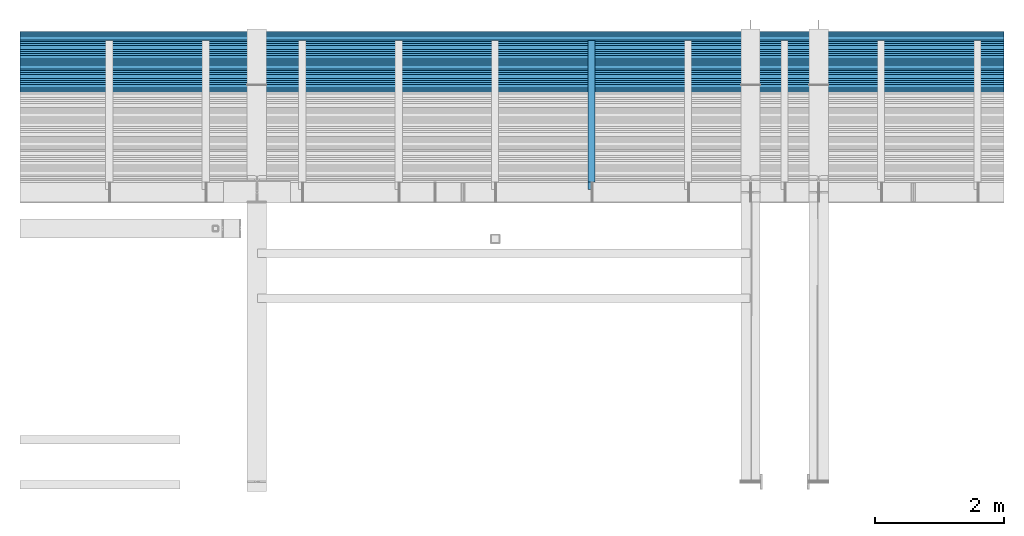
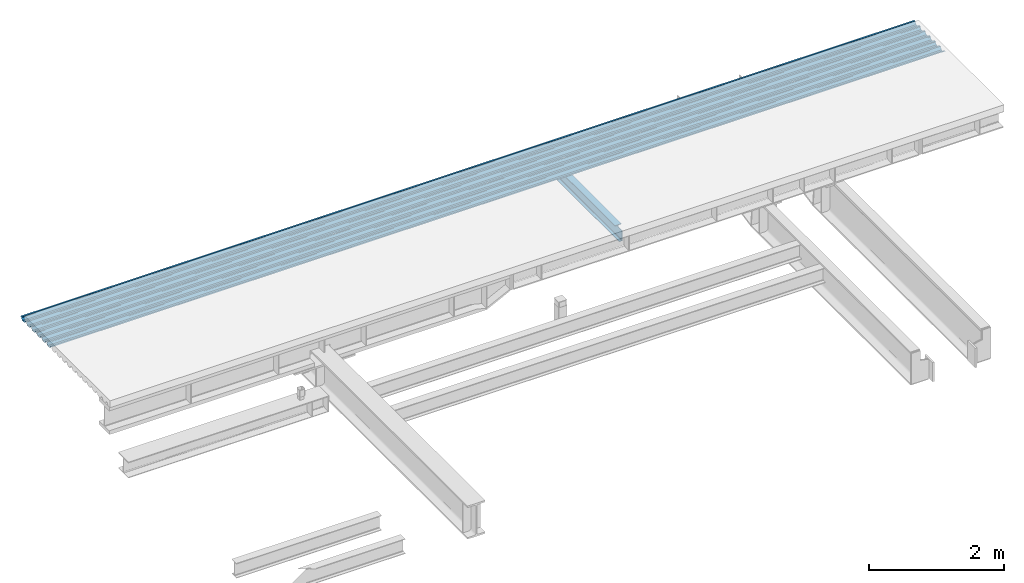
# One storey, part 9 of 12: 3 beams.
"""IFC2X3 building model written with IfcOpenShell, lengths in millimetres."""

import ifcopenshell
import ifcopenshell.guid

model = None  # the IFC model being written
_history = None  # IfcOwnerHistory: only IFC2X3 demands one
_inside = {}  # id of a spatial element -> (the spatial element, [elements in it])
_under = {}  # id of a project, library or spatial element -> (it, [spatial elements below it])
_declared = {}  # id of a project -> (the project, [libraries it declares])
_typed = {}  # id of a type object -> (the type object, [elements of that type])
_made_of = {}  # id of a material, layer set ... -> (it, [elements and type objects made of it])


def new_model(schema):
    """Start an empty IFC model of exactly this schema.

    Asked for "IFC4X3", IfcOpenShell would pick the latest addendum, in which some entities
    have other attributes; the version numbers below select the first issue.
    IFC2X3 requires an IfcOwnerHistory on every rooted entity: one is made here for all.
    """
    global model, _history
    if schema == "IFC4X3":
        model = ifcopenshell.file(schema_version=(4, 3, 0, 0))
    else:
        model = ifcopenshell.file(schema=schema)
    _inside.clear()
    _under.clear()
    _declared.clear()
    _typed.clear()
    _made_of.clear()
    _history = None
    if model.schema == "IFC2X3":
        org = make("IfcOrganization", Name="unknown")
        user = make(
            "IfcPersonAndOrganization",
            ThePerson=make("IfcPerson", FamilyName="unknown"),
            TheOrganization=org,
        )
        app = make(
            "IfcApplication",
            ApplicationDeveloper=org,
            Version="unknown",
            ApplicationFullName="unknown",
            ApplicationIdentifier="unknown",
        )
        _history = make(
            "IfcOwnerHistory",
            OwningUser=user,
            OwningApplication=app,
            ChangeAction="ADDED",
            CreationDate=0,
        )
    return model


def make(cls, **values):
    """One entity of the class cls with the attributes given. An attribute that is None is left unset."""
    return model.create_entity(
        cls, **{name: value for name, value in values.items() if value is not None}
    )


def entity(cls, *values):
    """Any entity or typed value of the class cls, its attributes in the order of the schema. None: left unset."""
    e = model.create_entity(cls)
    for i, value in enumerate(values):
        if value is not None:
            e[i] = value
    return e


def rooted(cls, **values):
    """An entity with a GlobalId (a new one), such as an element, a storey or a relation."""
    return make(cls, GlobalId=ifcopenshell.guid.new(), OwnerHistory=_history, **values)


def si_unit(unit_type, name, prefix=None):
    """IfcSIUnit, for example si_unit("LENGTHUNIT", "METRE", prefix="MILLI")."""
    return make("IfcSIUnit", UnitType=unit_type, Prefix=prefix, Name=name)


def converted_unit(unit_type, name, factor, base, dimensions=None, offset=None):
    """IfcConversionBasedUnit, such as the inch: factor (a typed value) times the base unit."""
    return make(
        "IfcConversionBasedUnit"
        if offset is None
        else "IfcConversionBasedUnitWithOffset",
        ConversionOffset=offset,
        Dimensions=None
        if dimensions is None
        else entity("IfcDimensionalExponents", *dimensions),
        UnitType=unit_type,
        Name=name,
        ConversionFactor=make(
            "IfcMeasureWithUnit", ValueComponent=factor, UnitComponent=base
        ),
    )


def derived_unit(unit_type, elements):
    """IfcDerivedUnit: a product of units, each with its exponent."""
    return make(
        "IfcDerivedUnit",
        Elements=[
            make("IfcDerivedUnitElement", Unit=unit, Exponent=power)
            for unit, power in elements
        ],
        UnitType=unit_type,
    )


def assignment(units):
    """IfcUnitAssignment: the units of a project."""
    return None if units is None else make("IfcUnitAssignment", Units=units)


def point(xyz):
    """IfcCartesianPoint."""
    return None if xyz is None else make("IfcCartesianPoint", Coordinates=xyz)


def direction(xyz):
    """IfcDirection."""
    return None if xyz is None else make("IfcDirection", DirectionRatios=xyz)


def frame(location, z_axis=None, x_axis=None):
    """IfcAxis2Placement3D, a coordinate frame: its origin and axes. An axis left out is left unset."""
    return make(
        "IfcAxis2Placement3D",
        Location=point(location),
        Axis=direction(z_axis),
        RefDirection=direction(x_axis),
    )


def origin_with_axes():
    """The frame at (0, 0, 0) with the z axis (0, 0, 1) and the x axis (1, 0, 0) written out."""
    return frame((0.0, 0.0, 0.0), z_axis=(0.0, 0.0, 1.0), x_axis=(1.0, 0.0, 0.0))


def place(relative_to, where):
    """IfcLocalPlacement: puts the frame where relative to a parent placement (None: the world)."""
    return make(
        "IfcLocalPlacement", PlacementRelTo=relative_to, RelativePlacement=where
    )


def context(
    kind, dimensions, precision=None, world=None, true_north=None, identifier=None
):
    """IfcGeometricRepresentationContext, for example the 3D "Model" context."""
    return make(
        "IfcGeometricRepresentationContext",
        ContextIdentifier=identifier,
        ContextType=kind,
        CoordinateSpaceDimension=dimensions,
        Precision=precision,
        WorldCoordinateSystem=world,
        TrueNorth=true_north,
    )


def subcontext(parent, identifier, kind, view, scale=None):
    """IfcGeometricRepresentationSubContext, for example "Body" below "Model"."""
    return make(
        "IfcGeometricRepresentationSubContext",
        ContextIdentifier=identifier,
        ContextType=kind,
        ParentContext=parent,
        TargetScale=scale,
        TargetView=view,
    )


def project(units=None, contexts=None):
    """IfcProject with its units and contexts."""
    return rooted(
        "IfcProject",
        Name="project",
        RepresentationContexts=contexts,
        UnitsInContext=assignment(units),
    )


def spatial(cls, under=None, at=None, **own):
    """A site, building, storey or space (cls), placed at a placement, below another one or the project."""
    s = rooted(cls, ObjectPlacement=at, **own)
    if under is not None:
        _under.setdefault(under.id(), (under, []))[1].append(s)
    return s


def faces_of(points, faces, orient=None, outer=None):
    """IfcFace entities. A face is a list of loops; a loop is a list of indices into points, from 0.

    orient and outer hold one flag for each loop. By default every Orientation is true, the
    first loop of a face is its IfcFaceOuterBound and the others are IfcFaceBound.
    """
    made = []
    for i, loops in enumerate(faces):
        bounds = []
        for j, loop in enumerate(loops):
            is_outer = j == 0 if outer is None else outer[i][j]
            bounds.append(
                make(
                    "IfcFaceOuterBound" if is_outer else "IfcFaceBound",
                    Bound=make("IfcPolyLoop", Polygon=[points[k] for k in loop]),
                    Orientation=True if orient is None else orient[i][j],
                )
            )
        made.append(make("IfcFace", Bounds=bounds))
    return made


def faceted_brep(points, faces, orient=None, outer=None, voids=None):
    """IfcFacetedBrep: a solid bounded by flat faces; with voids (closed shells), ...WithVoids."""
    shared = [point(p) for p in points]
    hull = make("IfcClosedShell", CfsFaces=faces_of(shared, faces, orient, outer))
    if voids is None:
        return make("IfcFacetedBrep", Outer=hull)
    return make(
        "IfcFacetedBrepWithVoids",
        Outer=hull,
        Voids=[
            make(cls, CfsFaces=faces_of(shared, fs, o, b)) for cls, fs, o, b in voids
        ],
    )


def shape(context_of_items, identifier, shape_type, items):
    """IfcShapeRepresentation: the items that make up one representation, for example the "Body"."""
    return make(
        "IfcShapeRepresentation",
        ContextOfItems=context_of_items,
        RepresentationIdentifier=identifier,
        RepresentationType=shape_type,
        Items=items,
    )


def made_of(thing, what):
    """Note that an element or type object is made of a material, layer set ...; save() writes the relation."""
    if what is not None:
        _made_of.setdefault(what.id(), (what, []))[1].append(thing)
    return thing


def type_object(cls, material=None, **own):
    """A type object (cls), such as IfcWallType, which elements share."""
    return made_of(rooted(cls, **own), material)


def element(
    cls,
    number,
    at=None,
    inside=None,
    cuts=None,
    type_object=None,
    material=None,
    context=None,
    identifier="Body",
    shape_type=None,
    held_by="IfcProductDefinitionShape",
    body=None,
    shapes=None,
    **own,
):
    """One element of the class cls, such as IfcWall. Its Tag is "e" and its number.

    at: its placement. inside: the storey or other place that contains it. cuts: it is an
    opening in that element (IfcRelVoidsElement). A single representation is given by context,
    identifier, shape_type and body (its items); several are given by shapes. held_by: the class
    of the entity that holds the representations. save() writes the other relations.
    """
    e = rooted(cls, Tag="e%d" % number, ObjectPlacement=at, **own)
    if body is not None:
        shapes = [shape(context, identifier, shape_type, body)]
    if shapes is not None:
        e.Representation = make(held_by, Representations=shapes)
    if inside is not None:
        _inside.setdefault(inside.id(), (inside, []))[1].append(e)
    if cuts is not None:
        rooted(
            "IfcRelVoidsElement", RelatingBuildingElement=cuts, RelatedOpeningElement=e
        )
    if type_object is not None:
        _typed.setdefault(type_object.id(), (type_object, []))[1].append(e)
    return made_of(e, material)


def aggregate(whole, parts):
    """IfcRelAggregates: a whole, such as a stair, and the parts it consists of."""
    return rooted("IfcRelAggregates", RelatingObject=whole, RelatedObjects=parts)


def save(model, path):
    """Write the relations noted so far, then the file.

    IfcRelAggregates (storeys below a building ...), IfcRelContainedInSpatialStructure (elements
    in a storey), IfcRelDefinesByType, IfcRelAssociatesMaterial and IfcRelDeclares: one each for
    every whole, place, type object, material and project.
    """
    for whole, parts in _under.values():
        aggregate(whole, parts)
    for where, things in _inside.values():
        rooted(
            "IfcRelContainedInSpatialStructure",
            RelatedElements=things,
            RelatingStructure=where,
        )
    for kind, things in _typed.values():
        rooted("IfcRelDefinesByType", RelatedObjects=things, RelatingType=kind)
    for what, things in _made_of.values():
        rooted("IfcRelAssociatesMaterial", RelatedObjects=things, RelatingMaterial=what)
    for by, libraries in _declared.values():
        rooted("IfcRelDeclares", RelatingContext=by, RelatedDefinitions=libraries)
    model.write(path)


model = new_model("IFC2X3")

# Units and contexts
model_context = context("Model", 3, precision=0.01, world=frame((0.0, 4.29681676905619e-09, 0.0)), true_north=direction((4.01073788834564e-13, 1.0)))
plan_context = context("Plan", 3, precision=0.01, world=frame((0.0, 4.29681676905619e-09, 0.0)), true_north=direction((4.01073788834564e-13, 1.0)))
body_context = subcontext(model_context, "Body", "Model", "MODEL_VIEW")
ifc_project = project(units=[converted_unit("PLANEANGLEUNIT", "DEGREE", entity("IfcPositiveLengthMeasure", 0.0174532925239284), si_unit("PLANEANGLEUNIT", "RADIAN"), dimensions=[0, 0, 0, 0, 0, 0, 0]), si_unit("AREAUNIT", "SQUARE_METRE"), si_unit("LENGTHUNIT", "METRE", prefix="MILLI"), si_unit("MASSUNIT", "GRAM", prefix="KILO"), si_unit("POWERUNIT", "WATT"), si_unit("PRESSUREUNIT", "PASCAL"), si_unit("FORCEUNIT", "NEWTON", prefix="KILO"), si_unit("ELECTRICVOLTAGEUNIT", "VOLT"), si_unit("ELECTRICCURRENTUNIT", "AMPERE"), si_unit("THERMODYNAMICTEMPERATUREUNIT", "DEGREE_CELSIUS"), si_unit("TIMEUNIT", "SECOND"), si_unit("VOLUMEUNIT", "CUBIC_METRE"), derived_unit("LINEARVELOCITYUNIT", [(si_unit("LENGTHUNIT", "METRE"), 1), (si_unit("TIMEUNIT", "SECOND"), -1)]), derived_unit("VOLUMETRICFLOWRATEUNIT", [(si_unit("VOLUMEUNIT", "CUBIC_METRE"), 1), (si_unit("TIMEUNIT", "SECOND"), -1)]), derived_unit("THERMALTRANSMITTANCEUNIT", [(si_unit("POWERUNIT", "WATT"), 1), (si_unit("THERMODYNAMICTEMPERATUREUNIT", "KELVIN"), -1), (si_unit("AREAUNIT", "SQUARE_METRE"), -1)]), derived_unit("SOUNDPRESSUREUNIT", [(si_unit("PRESSUREUNIT", "PASCAL"), 1)])], contexts=[model_context, plan_context])

# Site, building, storey
site_placement = place(None, frame((0.0, -4.29681676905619e-09, 0.0), z_axis=(0.0, 0.0, 1.0), x_axis=(1.0, 0.0, 0.0)))
site = spatial("IfcSite", under=ifc_project, at=site_placement, Name="Gardermoen", CompositionType="ELEMENT")
building_placement = place(site_placement, frame((0.0, 4.29681676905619e-09, 0.0), z_axis=(0.0, 0.0, 1.0), x_axis=(1.0, 0.0, 0.0)))
building = spatial("IfcBuilding", under=site, at=building_placement, Name="TH", CompositionType="ELEMENT")
storey_placement = place(building_placement, origin_with_axes())
storey = spatial("IfcBuildingStorey", under=building, at=storey_placement, Name="D", CompositionType="ELEMENT", Elevation=0.0)

# Beams
beam_type_1 = type_object("IfcBeamType", Name="PLANNJACD45_H", PredefinedType="NOTDEFINED")
beam_1_placement = place(storey_placement, frame((886883.999728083, 486785.907461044, 210062.950004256), z_axis=(0.0, 0.0, 1.0), x_axis=(1.0, 0.0, 0.0)))
element("IfcBeam", 1, at=beam_1_placement, inside=storey, type_object=beam_type_1, Name="STÅLDEKKE", ObjectType="PLANNJACD45_H", context=body_context, shape_type="Brep", body=[
    faceted_brep([(8227.90644048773, 133.300002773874, -22.9500007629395), (8227.90644048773, 102.900001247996, 7.44999837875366), (23526.5851137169, 102.900001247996, 7.44999837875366), (23526.5851137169, 133.300002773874, -22.9500007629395), (8227.90644048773, 110.400001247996, 14.9500007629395), (23526.5851137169, 110.400001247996, 14.9500007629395), (8227.90644048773, 103.300002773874, 22.0500011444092), (23526.5851137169, 103.300002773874, 22.0500011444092), (8227.90644048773, 73.3000027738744, 22.0500011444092), (23526.5851137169, 73.3000027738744, 22.0500011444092), (8227.90644048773, 66.2000042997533, 14.9500007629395), (23526.5851137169, 66.2000042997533, 14.9500007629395), (8227.90644048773, 73.7000042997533, 7.4500036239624), (23526.5851137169, 73.7000042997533, 7.4500036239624), (8227.90644048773, 43.2999989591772, -22.9499988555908), (23526.5851137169, 43.2999989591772, -22.9499988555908), (8227.90644048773, -16.6999972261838, -22.9500045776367), (23526.5851137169, -16.6999972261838, -22.9500045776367), (8227.90644048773, -47.0999987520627, 7.44999837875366), (23526.5851137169, -47.0999987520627, 7.44999837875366), (8227.90644048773, -39.6000025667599, 14.9499959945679), (23526.5851137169, -39.6000025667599, 14.9499959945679), (8227.90644048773, -46.7000086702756, 22.0500011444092), (23526.5851137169, -46.7000086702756, 22.0500011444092), (8227.90644048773, -76.6999972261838, 22.0500011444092), (23526.5851137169, -76.6999972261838, 22.0500011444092), (8227.90644048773, -83.7999880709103, 14.9500064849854), (23526.5851137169, -83.7999880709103, 14.9500064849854), (8227.90644048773, -76.2999957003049, 7.4500093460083), (23526.5851137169, -76.2999957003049, 7.4500093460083), (8227.90644048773, -106.699997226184, -22.9499931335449), (23526.5851137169, -106.699997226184, -22.9499931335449), (8227.90644048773, -166.700012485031, -22.9500045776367), (23526.5851137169, -166.700012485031, -22.9500045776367), (8227.90644048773, -197.100006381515, 7.44999837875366), (23526.5851137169, -197.100006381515, 7.44999837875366), (8227.90644048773, -189.600006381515, 14.9499959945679), (23526.5851137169, -189.600006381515, 14.9499959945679), (8227.90644048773, -196.700012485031, 22.0500011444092), (23526.5851137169, -196.700012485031, 22.0500011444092), (8227.90644048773, -223.699981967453, 22.0500011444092), (23526.5851137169, -223.699981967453, 22.0500011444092), (8227.90644048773, -223.699997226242, 22.9500045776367), (23526.5851137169, -223.699997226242, 22.9500045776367), (8227.90644048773, -196.300003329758, 22.8500061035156), (23526.5851137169, -196.300003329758, 22.8500061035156), (8227.90644048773, -188.399994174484, 14.9499959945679), (23526.5851137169, -188.399994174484, 14.9499959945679), (8227.90644048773, -195.899994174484, 7.44999837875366), (23526.5851137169, -195.899994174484, 7.44999837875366), (8227.90644048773, -166.299988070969, -22.0500011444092), (23526.5851137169, -166.299988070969, -22.0500011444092), (8227.90644048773, -107.099998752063, -22.1499996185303), (23526.5851137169, -107.099998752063, -22.1499996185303), (8227.90644048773, -77.5000002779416, 7.44999837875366), (23526.5851137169, -77.5000002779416, 7.44999837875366), (8227.90644048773, -85.0000002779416, 14.9499959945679), (23526.5851137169, -85.0000002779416, 14.9499959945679), (8227.90644048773, -77.0999987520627, 22.9499931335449), (23526.5851137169, -77.0999987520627, 22.9499931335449), (8227.90644048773, -46.2999957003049, 22.8500061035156), (23526.5851137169, -46.2999957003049, 22.8500061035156), (8227.90644048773, -38.399994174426, 14.9500064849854), (23526.5851137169, -38.399994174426, 14.9500064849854), (8227.90644048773, -45.9000018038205, 7.44999837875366), (23526.5851137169, -45.9000018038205, 7.44999837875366), (8227.90644048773, -16.300005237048, -22.0500011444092), (23526.5851137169, -16.300005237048, -22.0500011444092), (8227.90644048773, 42.9000050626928, -22.1499938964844), (23526.5851137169, 42.9000050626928, -22.1499938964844), (8227.90644048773, 72.5000073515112, 7.4500036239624), (23526.5851137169, 72.5000073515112, 7.4500036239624), (8227.90644048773, 65.0000073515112, 14.9500007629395), (23526.5851137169, 65.0000073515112, 14.9500007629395), (8227.90644048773, 72.9000088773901, 22.9499988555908), (23526.5851137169, 72.9000088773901, 22.9499988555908), (8227.90644048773, 103.700004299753, 22.8500003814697), (23526.5851137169, 103.700004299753, 22.8500003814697), (8227.90644048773, 111.599998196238, 14.9500007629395), (23526.5851137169, 111.599998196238, 14.9500007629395), (8227.90644048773, 104.100005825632, 7.4500036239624), (23526.5851137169, 104.100005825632, 7.4500036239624), (8227.90644048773, 133.699996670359, -22.0499992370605), (23526.5851137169, 133.699996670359, -22.0499992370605), (8227.90644048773, 192.90000887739, -22.1499977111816), (23526.5851137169, 192.90000887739, -22.1499977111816), (8227.90644048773, 222.499999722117, 7.45000123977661), (23526.5851137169, 222.499999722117, 7.45000123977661), (8227.90644048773, 214.999999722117, 14.9500007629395), (23526.5851137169, 214.999999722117, 14.9500007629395), (8227.90644048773, 222.90000887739, 22.9500007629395), (23526.5851137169, 222.90000887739, 22.9500007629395), (8227.90644048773, 223.300002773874, 22.0500011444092), (23526.5851137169, 223.300002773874, 22.0500011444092), (8227.90644048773, 216.199996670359, 14.9500007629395), (23526.5851137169, 216.199996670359, 14.9500007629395), (8227.90644048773, 223.699996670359, 7.45000123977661), (23526.5851137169, 223.699996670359, 7.45000123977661), (8227.90644048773, 193.300002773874, -22.9499988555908), (23526.5851137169, 193.300002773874, -22.9499988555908)], [[[0, 1, 2, 3]], [[1, 4, 5, 2]], [[4, 6, 7, 5]], [[6, 8, 9, 7]], [[8, 10, 11, 9]], [[10, 12, 13, 11]], [[12, 14, 15, 13]], [[14, 16, 17, 15]], [[16, 18, 19, 17]], [[18, 20, 21, 19]], [[20, 22, 23, 21]], [[22, 24, 25, 23]], [[24, 26, 27, 25]], [[26, 28, 29, 27]], [[28, 30, 31, 29]], [[30, 32, 33, 31]], [[32, 34, 35, 33]], [[34, 36, 37, 35]], [[36, 38, 39, 37]], [[38, 40, 41, 39]], [[40, 42, 43, 41]], [[42, 44, 45, 43]], [[44, 46, 47, 45]], [[46, 48, 49, 47]], [[48, 50, 51, 49]], [[50, 52, 53, 51]], [[52, 54, 55, 53]], [[54, 56, 57, 55]], [[56, 58, 59, 57]], [[58, 60, 61, 59]], [[60, 62, 63, 61]], [[62, 64, 65, 63]], [[64, 66, 67, 65]], [[66, 68, 69, 67]], [[68, 70, 71, 69]], [[70, 72, 73, 71]], [[72, 74, 75, 73]], [[74, 76, 77, 75]], [[76, 78, 79, 77]], [[78, 80, 81, 79]], [[80, 82, 83, 81]], [[82, 84, 85, 83]], [[84, 86, 87, 85]], [[86, 88, 89, 87]], [[88, 90, 91, 89]], [[90, 92, 93, 91]], [[92, 94, 95, 93]], [[94, 96, 97, 95]], [[96, 98, 99, 97]], [[98, 0, 3, 99]], [[5, 7, 9, 11, 13, 15, 17, 19, 21, 23, 25, 27, 29, 31, 33, 35, 37, 39, 41, 43, 45, 47, 49, 51, 53, 55, 57, 59, 61, 63, 65, 67, 69, 71, 73, 75, 77, 79, 81, 83, 85, 87, 89, 91, 93, 95, 97, 99, 3, 2]], [[98, 96, 94, 92, 90, 88, 86, 84, 82, 80, 78, 76, 74, 72, 70, 68, 66, 64, 62, 60, 58, 56, 54, 52, 50, 48, 46, 44, 42, 40, 38, 36, 34, 32, 30, 28, 26, 24, 22, 20, 18, 16, 14, 12, 10, 8, 6, 4, 1, 0]]], orient=[[False], [False], [False], [False], [False], [False], [False], [False], [False], [False], [False], [False], [False], [False], [False], [False], [False], [False], [False], [False], [False], [False], [False], [False], [False], [False], [False], [False], [False], [False], [False], [False], [False], [False], [False], [False], [False], [False], [False], [False], [False], [False], [False], [False], [False], [False], [False], [False], [False], [False], [False], [False]]),
])
beam_type_2 = type_object("IfcBeamType", Name="PLANNJACD45_V", PredefinedType="NOTDEFINED")
beam_2_placement = place(storey_placement, frame((886883.999840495, 487253.657463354, 210062.950002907), z_axis=(0.0, 0.0, 1.0), x_axis=(1.0, 0.0, 0.0)))
element("IfcBeam", 2, at=beam_2_placement, inside=storey, type_object=beam_type_2, Name="STÅLDEKKE", ObjectType="PLANNJACD45_V", context=body_context, shape_type="Brep", body=[
    faceted_brep([(8227.90632807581, 236.350005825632, 22.0499992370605), (8227.90632807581, 206.350005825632, 22.0499992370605), (23526.585001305, 206.350005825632, 22.0499992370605), (23526.585001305, 236.350005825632, 22.0499992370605), (8227.90632807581, 199.249999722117, 14.9499998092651), (23526.585001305, 199.249999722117, 14.9499998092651), (8227.90632807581, 206.749999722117, 7.44999980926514), (23526.585001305, 206.749999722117, 7.44999980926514), (8227.90632807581, 176.349990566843, -22.9500026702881), (23526.585001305, 176.349990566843, -22.9500026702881), (8227.90632807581, 116.34999819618, -22.9500026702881), (23526.585001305, 116.34999819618, -22.9500026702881), (8227.90632807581, 85.9499966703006, 7.44999694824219), (23526.585001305, 85.9499966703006, 7.44999694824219), (8227.90632807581, 93.4499966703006, 14.9499998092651), (23526.585001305, 93.4499966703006, 14.9499998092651), (8227.90632807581, 86.3499981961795, 22.0499992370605), (23526.585001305, 86.3499981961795, 22.0499992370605), (8227.90632807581, 56.3500020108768, 22.0499935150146), (23526.585001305, 56.3500020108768, 22.0499935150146), (8227.90632807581, 49.250007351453, 14.9499998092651), (23526.585001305, 49.250007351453, 14.9499998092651), (8227.90632807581, 56.750007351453, 7.45000219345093), (23526.585001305, 56.750007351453, 7.45000219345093), (8227.90632807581, 26.3500039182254, -22.9500007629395), (23526.585001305, 26.3500039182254, -22.9500007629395), (8227.90632807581, -33.6499979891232, -22.9500007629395), (23526.585001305, -33.6499979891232, -22.9500007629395), (8227.90632807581, -64.0499957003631, 7.45000219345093), (23526.585001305, -64.0499957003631, 7.45000219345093), (8227.90632807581, -56.5500033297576, 14.9499998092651), (23526.585001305, -56.5500033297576, 14.9499998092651), (8227.90632807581, -63.6499979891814, 22.0499935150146), (23526.585001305, -63.6499979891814, 22.0499935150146), (8227.90632807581, -93.6500094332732, 22.0499935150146), (23526.585001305, -93.6500094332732, 22.0499935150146), (8227.90632807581, -100.750000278, 14.9499998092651), (23526.585001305, -100.750000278, 14.9499998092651), (8227.90632807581, -93.2500079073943, 7.45000219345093), (23526.585001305, -93.2500079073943, 7.45000219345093), (8227.90632807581, -123.649994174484, -22.9499893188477), (23526.585001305, -123.649994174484, -22.9499893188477), (8227.90632807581, -183.650009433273, -22.9500007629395), (23526.585001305, -183.650009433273, -22.9500007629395), (8227.90632807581, -214.050003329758, 7.45000219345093), (23526.585001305, -214.050003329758, 7.45000219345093), (8227.90632807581, -206.550018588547, 14.9499998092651), (23526.585001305, -206.550018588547, 14.9499998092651), (8227.90632807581, -213.649994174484, 22.0499839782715), (23526.585001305, -213.649994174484, 22.0499839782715), (8227.90632807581, -243.650009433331, 22.0500049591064), (23526.585001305, -243.650009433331, 22.0500049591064), (8227.90632807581, -244.050003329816, 22.949987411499), (23526.585001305, -244.050003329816, 22.949987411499), (8227.90632807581, -213.250000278, 22.8500099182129), (23526.585001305, -213.250000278, 22.8500099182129), (8227.90632807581, -205.349991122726, 14.9499998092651), (23526.585001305, -205.349991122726, 14.9499998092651), (8227.90632807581, -212.849991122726, 7.45000219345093), (23526.585001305, -212.849991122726, 7.45000219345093), (8227.90632807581, -183.250000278, -22.0499973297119), (23526.585001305, -183.250000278, -22.0499973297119), (8227.90632807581, -124.049995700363, -22.149995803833), (23526.585001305, -124.049995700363, -22.149995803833), (8227.90632807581, -94.4500048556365, 7.45000219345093), (23526.585001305, -94.4500048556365, 7.45000219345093), (8227.90632807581, -101.949997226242, 14.9499998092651), (23526.585001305, -101.949997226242, 14.9499998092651), (8227.90632807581, -94.0499957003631, 22.9499969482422), (23526.585001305, -94.0499957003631, 22.9499969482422), (8227.90632807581, -63.2500040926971, 22.8500003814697), (23526.585001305, -63.2500040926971, 22.8500003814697), (8227.90632807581, -55.3500063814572, 14.9499998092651), (23526.585001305, -55.3500063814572, 14.9499998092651), (8227.90632807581, -62.8500025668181, 7.45000219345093), (23526.585001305, -62.8500025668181, 7.45000219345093), (8227.90632807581, -33.2500040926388, -22.0499973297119), (23526.585001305, -33.2500040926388, -22.0499973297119), (8227.90632807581, 25.949994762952, -22.1499996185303), (23526.585001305, 25.949994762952, -22.1499996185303), (8227.90632807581, 55.5499913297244, 7.44999694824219), (23526.585001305, 55.5499913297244, 7.44999694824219), (8227.90632807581, 48.0499913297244, 14.9499998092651), (23526.585001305, 48.0499913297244, 14.9499998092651), (8227.90632807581, 55.9499966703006, 22.9500026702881), (23526.585001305, 55.9499966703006, 22.9500026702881), (8227.90632807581, 86.7499920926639, 22.8500003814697), (23526.585001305, 86.7499920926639, 22.8500003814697), (8227.90632807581, 94.6499936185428, 14.9499998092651), (23526.585001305, 94.6499936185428, 14.9499998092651), (8227.90632807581, 87.1500012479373, 7.45000219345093), (23526.585001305, 87.1500012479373, 7.45000219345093), (8227.90632807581, 116.749999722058, -22.0499992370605), (23526.585001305, 116.749999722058, -22.0499992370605), (8227.90632807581, 175.949996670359, -22.1500015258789), (23526.585001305, 175.949996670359, -22.1500015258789), (8227.90632807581, 205.550002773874, 7.44999837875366), (23526.585001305, 205.550002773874, 7.44999837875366), (8227.90632807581, 198.050002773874, 14.9499998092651), (23526.585001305, 198.050002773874, 14.9499998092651), (8227.90632807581, 205.949996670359, 22.9500007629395), (23526.585001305, 205.949996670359, 22.9500007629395), (8227.90632807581, 236.749999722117, 22.8500003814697), (23526.585001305, 236.749999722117, 22.8500003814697), (8227.90632807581, 244.050002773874, 15.5499992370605), (23526.585001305, 244.050002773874, 15.5499992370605), (8227.90632807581, 243.449996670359, 14.9499998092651), (23526.585001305, 243.449996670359, 14.9499998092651)], [[[0, 1, 2, 3]], [[1, 4, 5, 2]], [[4, 6, 7, 5]], [[6, 8, 9, 7]], [[8, 10, 11, 9]], [[10, 12, 13, 11]], [[12, 14, 15, 13]], [[14, 16, 17, 15]], [[16, 18, 19, 17]], [[18, 20, 21, 19]], [[20, 22, 23, 21]], [[22, 24, 25, 23]], [[24, 26, 27, 25]], [[26, 28, 29, 27]], [[28, 30, 31, 29]], [[30, 32, 33, 31]], [[32, 34, 35, 33]], [[34, 36, 37, 35]], [[36, 38, 39, 37]], [[38, 40, 41, 39]], [[40, 42, 43, 41]], [[42, 44, 45, 43]], [[44, 46, 47, 45]], [[46, 48, 49, 47]], [[48, 50, 51, 49]], [[50, 52, 53, 51]], [[52, 54, 55, 53]], [[54, 56, 57, 55]], [[56, 58, 59, 57]], [[58, 60, 61, 59]], [[60, 62, 63, 61]], [[62, 64, 65, 63]], [[64, 66, 67, 65]], [[66, 68, 69, 67]], [[68, 70, 71, 69]], [[70, 72, 73, 71]], [[72, 74, 75, 73]], [[74, 76, 77, 75]], [[76, 78, 79, 77]], [[78, 80, 81, 79]], [[80, 82, 83, 81]], [[82, 84, 85, 83]], [[84, 86, 87, 85]], [[86, 88, 89, 87]], [[88, 90, 91, 89]], [[90, 92, 93, 91]], [[92, 94, 95, 93]], [[94, 96, 97, 95]], [[96, 98, 99, 97]], [[98, 100, 101, 99]], [[100, 102, 103, 101]], [[102, 104, 105, 103]], [[104, 106, 107, 105]], [[106, 0, 3, 107]], [[5, 7, 9, 11, 13, 15, 17, 19, 21, 23, 25, 27, 29, 31, 33, 35, 37, 39, 41, 43, 45, 47, 49, 51, 53, 55, 57, 59, 61, 63, 65, 67, 69, 71, 73, 75, 77, 79, 81, 83, 85, 87, 89, 91, 93, 95, 97, 99, 101, 103, 105, 107, 3, 2]], [[106, 104, 102, 100, 98, 96, 94, 92, 90, 88, 86, 84, 82, 80, 78, 76, 74, 72, 70, 68, 66, 64, 62, 60, 58, 56, 54, 52, 50, 48, 46, 44, 42, 40, 38, 36, 34, 32, 30, 28, 26, 24, 22, 20, 18, 16, 14, 12, 10, 8, 6, 4, 1, 0]]], orient=[[False], [False], [False], [False], [False], [False], [False], [False], [False], [False], [False], [False], [False], [False], [False], [False], [False], [False], [False], [False], [False], [False], [False], [False], [False], [False], [False], [False], [False], [False], [False], [False], [False], [False], [False], [False], [False], [False], [False], [False], [False], [False], [False], [False], [False], [False], [False], [False], [False], [False], [False], [False], [False], [False], [False], [False]]),
])
beam_type_3 = type_object("IfcBeamType", Name="IPE220", PredefinedType="NOTDEFINED")
beam_3_placement = place(storey_placement, frame((903999.999781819, 484999.995625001, 209930.0), z_axis=(0.0, 0.0, 1.0), x_axis=(0.0, 1.0, 0.0)))
element("IfcBeam", 3, at=beam_3_placement, inside=storey, type_object=beam_type_3, Name="STÅLBJELKE", ObjectType="IPE220", context=body_context, shape_type="Brep", body=[
    faceted_brep([(2357.65437500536, -55.0, -110.0), (2357.65437500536, 55.0, -110.0), (39.9999999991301, 55.0, -110.0), (39.9999999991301, -2.95000004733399, -110.0), (159.99999999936, -2.95000004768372, -110.0), (159.99999999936, -55.0, -110.0), (2357.65437500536, -55.0, -100.800000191), (159.99999999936, -55.0, -100.800000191), (2357.65437500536, -14.9500000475, -100.800000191), (159.99999999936, -14.9500000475, -100.800000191), (2357.65437500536, -12.6089161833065, -100.569423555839), (159.99999999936, -12.6089161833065, -100.569423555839), (2357.65437500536, -10.3577988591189, -99.8865545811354), (159.99999999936, -10.3577988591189, -99.8865545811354), (2357.65437500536, -8.28315725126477, -98.7776355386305), (159.99999999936, -8.28315725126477, -98.7776355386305), (2357.65437500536, -6.46471867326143, -97.2852815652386), (159.99999999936, -6.46471867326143, -97.2852815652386), (2357.65437500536, -4.97236469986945, -95.4668429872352), (159.99999999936, -4.97236469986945, -95.4668429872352), (2357.65437500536, -3.86344565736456, -93.3922013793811), (159.99999999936, -3.86344565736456, -93.3922013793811), (2357.65437500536, -3.18057668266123, -91.1410840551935), (159.99999999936, -3.18057668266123, -91.1410840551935), (2357.65437500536, -2.9500000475, -88.800000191), (159.99999999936, -2.96969830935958, -89.0), (39.9999999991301, -2.96969830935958, -89.0), (39.9999999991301, -2.9500000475, -88.800000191), (2357.65437500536, -2.9500000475, 88.800000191), (39.9999999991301, -2.9500000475, 70.0), (149.999999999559, -2.9500000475, 69.9999999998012), (151.564344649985, -2.9500000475, 70.1231165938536), (153.090169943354, -2.9500000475, 70.4894348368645), (154.539904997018, -2.9500000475, 71.0899347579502), (155.877852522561, -2.9500000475, 71.9098300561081), (157.071067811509, -2.9500000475, 72.9289321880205), (158.090169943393, -2.9500000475, 74.1221474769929), (158.910065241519, -2.9500000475, 75.4600950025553), (159.510565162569, -2.9500000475, 76.9098300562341), (159.876883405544, -2.9500000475, 78.435655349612), (159.999999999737, -2.9500000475, 79.999999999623), (159.999999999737, -2.9500000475, 88.800000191), (2357.65437500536, -3.18057668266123, 91.1410840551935), (159.999999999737, -3.18057668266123, 91.1410840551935), (2357.65437500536, -3.86344565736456, 93.3922013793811), (159.999999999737, -3.86344565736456, 93.3922013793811), (2357.65437500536, -4.97236469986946, 95.4668429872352), (159.999999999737, -4.97236469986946, 95.4668429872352), (2357.65437500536, -6.46471867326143, 97.2852815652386), (159.999999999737, -6.46471867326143, 97.2852815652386), (2357.65437500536, -8.28315725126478, 98.7776355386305), (159.999999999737, -8.28315725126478, 98.7776355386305), (2357.65437500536, -10.3577988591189, 99.8865545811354), (159.999999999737, -10.3577988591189, 99.8865545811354), (2357.65437500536, -12.6089161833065, 100.569423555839), (159.999999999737, -12.6089161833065, 100.569423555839), (2357.65437500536, -14.9500000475, 100.800000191), (159.999999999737, -14.9500000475, 100.800000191), (2357.65437500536, -55.0, 100.800000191), (159.999999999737, -55.0, 100.800000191), (2357.65437500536, -55.0, 110.0), (159.999999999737, -55.0, 110.0), (2357.65437500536, 55.0, 110.0), (159.999999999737, 55.0, 110.0), (2357.65437500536, 55.0, 100.800000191), (159.999999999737, 55.0, 100.800000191), (2357.65437500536, 14.9500000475, 100.800000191), (159.999999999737, 14.9500000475, 100.800000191), (2357.65437500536, 12.6089161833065, 100.569423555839), (159.999999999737, 12.6089161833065, 100.569423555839), (2357.65437500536, 10.3577988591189, 99.8865545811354), (159.999999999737, 10.3577988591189, 99.8865545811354), (2357.65437500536, 8.28315725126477, 98.7776355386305), (159.999999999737, 8.28315725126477, 98.7776355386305), (2357.65437500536, 6.46471867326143, 97.2852815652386), (159.999999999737, 6.46471867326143, 97.2852815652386), (2357.65437500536, 4.97236469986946, 95.4668429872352), (159.999999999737, 4.97236469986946, 95.4668429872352), (2357.65437500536, 3.86344565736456, 93.3922013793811), (159.999999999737, 3.86344565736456, 93.3922013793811), (2357.65437500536, 3.18057668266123, 91.1410840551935), (159.999999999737, 3.18057668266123, 91.1410840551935), (2357.65437500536, 2.9500000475, 88.800000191), (159.999999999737, 2.9500000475, 88.800000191), (2357.65437500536, 2.9500000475, -88.800000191), (159.999999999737, 2.95000004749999, 79.999999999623), (159.876883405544, 2.95000004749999, 78.435655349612), (159.510565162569, 2.95000004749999, 76.9098300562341), (158.910065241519, 2.95000004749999, 75.4600950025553), (158.090169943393, 2.95000004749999, 74.1221474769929), (157.071067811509, 2.95000004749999, 72.9289321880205), (155.877852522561, 2.95000004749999, 71.9098300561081), (154.539904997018, 2.95000004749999, 71.0899347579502), (153.090169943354, 2.95000004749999, 70.4894348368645), (151.564344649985, 2.95000004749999, 70.1231165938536), (149.999999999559, 2.95000004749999, 69.9999999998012), (39.9999999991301, 2.9500000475, 70.0), (39.9999999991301, 2.9500000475, -88.800000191), (2357.65437500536, 3.18057668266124, -91.1410840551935), (39.9999999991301, 3.18057668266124, -91.1410840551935), (2357.65437500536, 3.86344565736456, -93.3922013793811), (39.9999999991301, 3.86344565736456, -93.3922013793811), (2357.65437500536, 4.97236469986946, -95.4668429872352), (39.9999999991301, 4.97236469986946, -95.4668429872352), (2357.65437500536, 6.46471867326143, -97.2852815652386), (39.9999999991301, 6.46471867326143, -97.2852815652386), (2357.65437500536, 8.28315725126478, -98.7776355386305), (39.9999999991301, 8.28315725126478, -98.7776355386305), (2357.65437500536, 10.3577988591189, -99.8865545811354), (39.9999999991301, 10.3577988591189, -99.8865545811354), (2357.65437500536, 12.6089161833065, -100.569423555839), (39.9999999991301, 12.6089161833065, -100.569423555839), (2357.65437500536, 14.9500000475, -100.800000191), (39.9999999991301, 14.9500000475, -100.800000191), (2357.65437500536, 55.0, -100.800000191), (39.9999999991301, 55.0, -100.800000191), (159.99999999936, -2.95000004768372, -89.0), (39.9999999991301, -2.95000004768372, -89.0)], [[[0, 1, 2, 3, 4, 5]], [[6, 0, 5, 7]], [[8, 6, 7, 9]], [[10, 8, 9, 11]], [[12, 10, 11, 13]], [[14, 12, 13, 15]], [[16, 14, 15, 17]], [[18, 16, 17, 19]], [[20, 18, 19, 21]], [[22, 20, 21, 23]], [[24, 22, 23, 25, 26, 27]], [[28, 24, 27, 29, 30, 31, 32, 33, 34, 35, 36, 37, 38, 39, 40, 41]], [[42, 28, 41, 43]], [[44, 42, 43, 45]], [[46, 44, 45, 47]], [[48, 46, 47, 49]], [[50, 48, 49, 51]], [[52, 50, 51, 53]], [[54, 52, 53, 55]], [[56, 54, 55, 57]], [[58, 56, 57, 59]], [[60, 58, 59, 61]], [[62, 60, 61, 63]], [[64, 62, 63, 65]], [[66, 64, 65, 67]], [[68, 66, 67, 69]], [[70, 68, 69, 71]], [[72, 70, 71, 73]], [[74, 72, 73, 75]], [[76, 74, 75, 77]], [[78, 76, 77, 79]], [[80, 78, 79, 81]], [[82, 80, 81, 83]], [[84, 82, 83, 85, 86, 87, 88, 89, 90, 91, 92, 93, 94, 95, 96, 97]], [[98, 84, 97, 99]], [[100, 98, 99, 101]], [[102, 100, 101, 103]], [[104, 102, 103, 105]], [[106, 104, 105, 107]], [[108, 106, 107, 109]], [[110, 108, 109, 111]], [[112, 110, 111, 113]], [[114, 112, 113, 115]], [[1, 114, 115, 2]], [[116, 25, 23, 21, 19, 17, 15, 13, 11, 9, 7, 5, 4]], [[116, 117, 26, 25]], [[116, 4, 3, 117]], [[30, 29, 96, 95]], [[95, 94, 31, 30]], [[94, 93, 32, 31]], [[93, 92, 33, 32]], [[92, 91, 34, 33]], [[91, 90, 35, 34]], [[90, 89, 36, 35]], [[89, 88, 37, 36]], [[88, 87, 38, 37]], [[87, 86, 39, 38]], [[86, 85, 40, 39]], [[85, 83, 81, 79, 77, 75, 73, 71, 69, 67, 65, 63, 61, 59, 57, 55, 53, 51, 49, 47, 45, 43, 41, 40]], [[26, 117, 3, 2, 115, 113, 111, 109, 107, 105, 103, 101, 99, 97, 96, 29, 27]], [[6, 8, 10, 12, 14, 16, 18, 20, 22, 24, 28, 42, 44, 46, 48, 50, 52, 54, 56, 58, 60, 62, 64, 66, 68, 70, 72, 74, 76, 78, 80, 82, 84, 98, 100, 102, 104, 106, 108, 110, 112, 114, 1, 0]]], orient=[[False], [False], [False], [False], [False], [False], [False], [False], [False], [False], [False], [False], [False], [False], [False], [False], [False], [False], [False], [False], [False], [False], [False], [False], [False], [False], [False], [False], [False], [False], [False], [False], [False], [False], [False], [False], [False], [False], [False], [False], [False], [False], [False], [False], [False], [False], [False], [False], [False], [False], [False], [False], [False], [False], [False], [False], [False], [False], [False], [False], [False]]),
])

save(model, "model.ifc")
